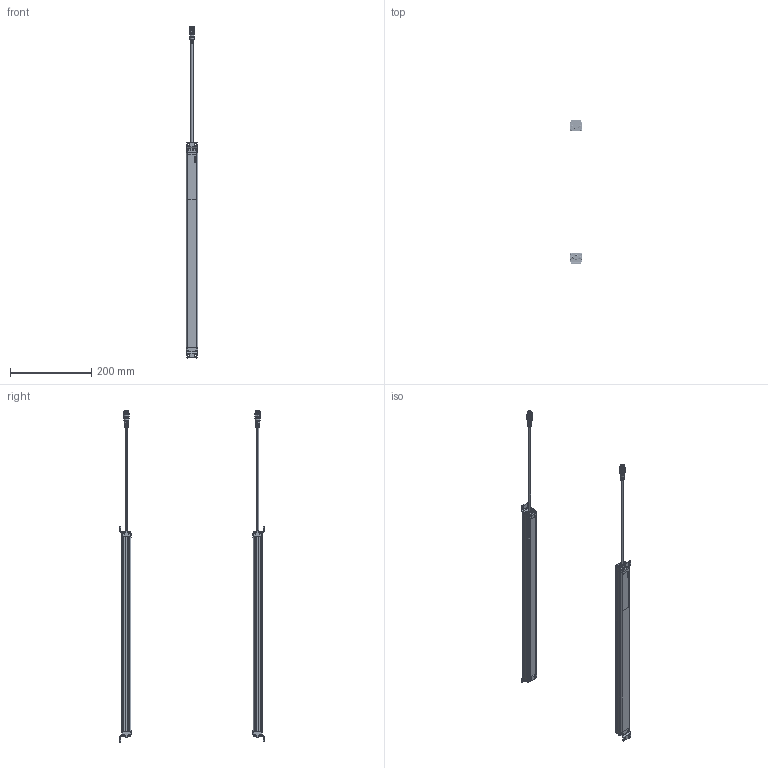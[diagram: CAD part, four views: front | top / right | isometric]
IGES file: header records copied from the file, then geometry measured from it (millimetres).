
Start section: SolidWorks IGES file using analytic representation for surfaces
Global section: file name: D:\权其捞瘤 档搁 犬厘磊 函券 累诀\颇飘1\BWC40-12H_BWC40-12HD.IGS; native system: SolidWorks 2015; preprocessor: SolidWorks 2015; author: Administrator; date: 180719.204539; units: millimetre
Bounding box: 28.6 x 354.1 x 815 mm (x, y, z)
Surface area: 139325.8 mm2 (no closed solid volume)
Topology: 0 solids, 0 shells, 3752 faces, 39468 edges, 39372 vertices
Faces by surface type: revolution 2022, bspline 1730
